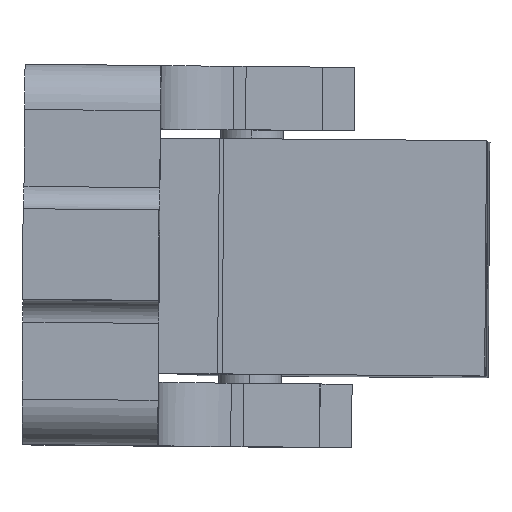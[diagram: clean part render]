
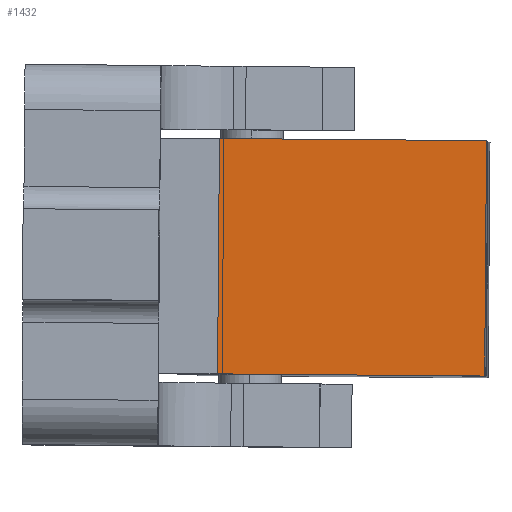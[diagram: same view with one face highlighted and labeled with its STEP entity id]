
A CAD part, top view. The second image highlights one B-rep face of the part: STEP entity #1432.
In plain terms, the highlighted planar face has unit normal (-0.003, 0, 1).
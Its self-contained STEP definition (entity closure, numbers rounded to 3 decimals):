
#1380=CARTESIAN_POINT('Vertex',(-3.606,-12.932,22.473)) ;
#1383=CARTESIAN_POINT('Line Origine',(-3.501,0.068,22.474)) ;
#1387=CARTESIAN_POINT('Vertex',(-3.396,13.067,22.475)) ;
#1402=CARTESIAN_POINT('Axis2P3D Location',(-0.001,0.04,22.485)) ;
#1407=CARTESIAN_POINT('Line Origine',(11.143,-13.051,22.518)) ;
#1411=CARTESIAN_POINT('Vertex',(25.893,-13.17,22.563)) ;
#1414=CARTESIAN_POINT('Line Origine',(25.998,-0.17,22.564)) ;
#1418=CARTESIAN_POINT('Vertex',(26.103,12.829,22.566)) ;
#1421=CARTESIAN_POINT('Line Origine',(11.353,12.948,22.52)) ;
#1384=DIRECTION('Vector Direction',(0.008,1.,0.)) ;
#1403=DIRECTION('Axis2P3D Direction',(-0.003,0.,1.)) ;
#1404=DIRECTION('Axis2P3D XDirection',(1.,-0.008,0.003)) ;
#1408=DIRECTION('Vector Direction',(-1.,0.008,-0.003)) ;
#1415=DIRECTION('Vector Direction',(0.008,1.,0.)) ;
#1422=DIRECTION('Vector Direction',(1.,-0.008,0.003)) ;
#1405=AXIS2_PLACEMENT_3D('Plane Axis2P3D',#1402,#1403,#1404) ;
#1427=ORIENTED_EDGE('',*,*,#1413,.T.) ;
#1428=ORIENTED_EDGE('',*,*,#1420,.T.) ;
#1429=ORIENTED_EDGE('',*,*,#1425,.T.) ;
#1430=ORIENTED_EDGE('',*,*,#1389,.F.) ;
#1385=VECTOR('Line Direction',#1384,1.) ;
#1409=VECTOR('Line Direction',#1408,1.) ;
#1416=VECTOR('Line Direction',#1415,1.) ;
#1423=VECTOR('Line Direction',#1422,1.) ;
#1432=ADVANCED_FACE('',(#1431),#1406,.T.) ;
#1389=EDGE_CURVE('',#1381,#1388,#1386,.T.) ;
#1413=EDGE_CURVE('',#1381,#1412,#1410,.F.) ;
#1420=EDGE_CURVE('',#1412,#1419,#1417,.T.) ;
#1425=EDGE_CURVE('',#1419,#1388,#1424,.F.) ;
#1426=EDGE_LOOP('',(#1427,#1428,#1429,#1430)) ;
#1431=FACE_OUTER_BOUND('',#1426,.T.) ;
#1386=LINE('Line',#1383,#1385) ;
#1410=LINE('Line',#1407,#1409) ;
#1417=LINE('Line',#1414,#1416) ;
#1424=LINE('Line',#1421,#1423) ;
#1406=PLANE('Plane',#1405) ;
#1381=VERTEX_POINT('',#1380) ;
#1388=VERTEX_POINT('',#1387) ;
#1412=VERTEX_POINT('',#1411) ;
#1419=VERTEX_POINT('',#1418) ;
